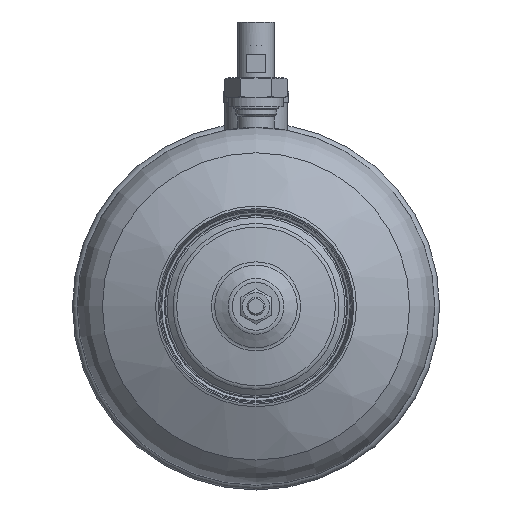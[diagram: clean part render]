
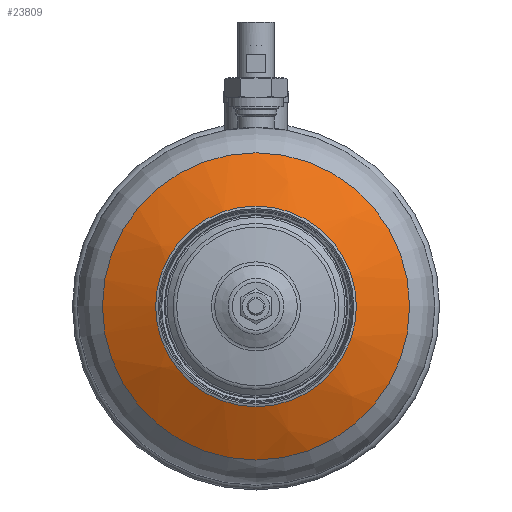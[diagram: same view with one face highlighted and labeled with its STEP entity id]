
A CAD part, front view. The second image highlights one B-rep face of the part: STEP entity #23809.
In plain terms, the highlighted spherical face has radius 159 mm.
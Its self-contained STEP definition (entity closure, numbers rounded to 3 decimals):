
#575=SPHERICAL_SURFACE('',#25673,159.);
#1313=FACE_BOUND('',#5628,.T.);
#4121=FACE_OUTER_BOUND('',#5627,.T.);
#5627=EDGE_LOOP('',(#21876));
#5628=EDGE_LOOP('',(#21877));
#9514=CIRCLE('',#25632,50.818);
#9530=CIRCLE('',#25672,85.047);
#11777=VERTEX_POINT('',#49230);
#11805=VERTEX_POINT('',#49322);
#15160=EDGE_CURVE('',#11777,#11777,#9514,.T.);
#15200=EDGE_CURVE('',#11805,#11805,#9530,.T.);
#21876=ORIENTED_EDGE('',*,*,#15200,.T.);
#21877=ORIENTED_EDGE('',*,*,#15160,.T.);
#23809=ADVANCED_FACE('',(#4121,#1313),#575,.T.);
#25632=AXIS2_PLACEMENT_3D('',#49231,#30791,#30792);
#25672=AXIS2_PLACEMENT_3D('',#49323,#30895,#30896);
#25673=AXIS2_PLACEMENT_3D('',#49324,#30897,#30898);
#30791=DIRECTION('center_axis',(0.,1.,0.));
#30792=DIRECTION('ref_axis',(0.,0.,1.));
#30895=DIRECTION('center_axis',(0.,-1.,0.));
#30896=DIRECTION('ref_axis',(0.,0.,
-1.));
#30897=DIRECTION('center_axis',(1.,0.,0.));
#30898=DIRECTION('ref_axis',(0.,0.,
1.));
#49230=CARTESIAN_POINT('',(0.,-189.3,-50.818));
#49231=CARTESIAN_POINT('Origin',(0.,-189.3,
0.));
#49322=CARTESIAN_POINT('',(0.,-172.983,-85.047));
#49323=CARTESIAN_POINT('Origin',(0.,-172.983,
0.));
#49324=CARTESIAN_POINT('Origin',(0.,-38.64,0.));
